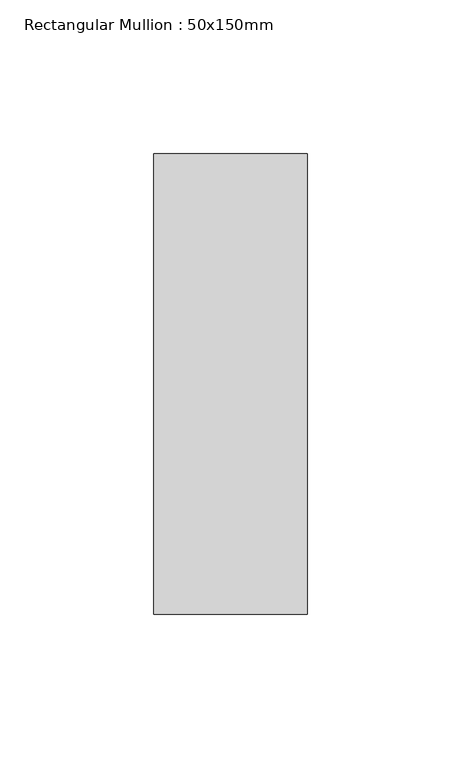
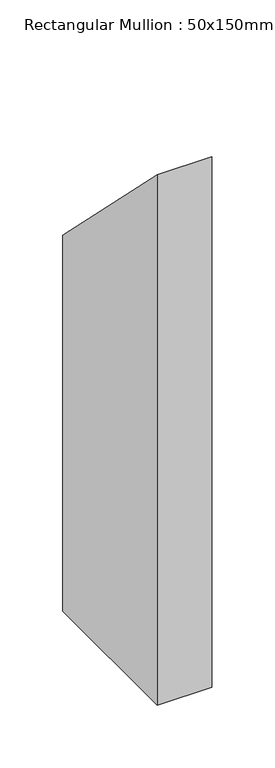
"""IFC4 building model written with IfcOpenShell, lengths in millimetres: member geometry, Rectangular Mullion : 50x150mm."""

from ifc_helpers import new_model, si_unit, frame, origin, place, context, project, spatial, polyline, outline, extrude, source, transform, mapped, element, save


def rectangular_mullion_50x150mm_0c817747(model_context):
    return source(origin(), model_context, "Body", "SweptSolid", [
        extrude(outline(polyline([(0.0, 0.0), (150.0, -150.0), (150.0, -514.9999996), (0.0, -514.9999996), (0.0, 0.0)])), frame((-50.0, 0.0, 0.0), z_axis=(1.0, 0.0, 0.0), x_axis=(0.0, 1.0, 0.0)), (0.0, 0.0, 1.0), 50.0),
    ])


if __name__ == "__main__":
    model = new_model("IFC4")
    model_context = context("Model", 3, world=origin())
    ifc_project = project(units=[si_unit("LENGTHUNIT", "METRE", prefix="MILLI")], contexts=[model_context])
    site = spatial("IfcSite", under=ifc_project)
    building = spatial("IfcBuilding", under=site)
    placement = place(None, origin())
    rectangular_mullion_50x150mm_shape = rectangular_mullion_50x150mm_0c817747(model_context)
    element("IfcMember", 1, ObjectType="Rectangular Mullion : 50x150mm", at=placement, inside=building, context=model_context, shape_type="MappedRepresentation", body=[
        mapped(rectangular_mullion_50x150mm_shape, transform((0.0, 0.0, 0.0), x_axis=(1.0, 0.0, 0.0), y_axis=(0.0, 1.0, 0.0), z_axis=(0.0, 0.0, 1.0))),
    ])
    save(model, "model.ifc")
